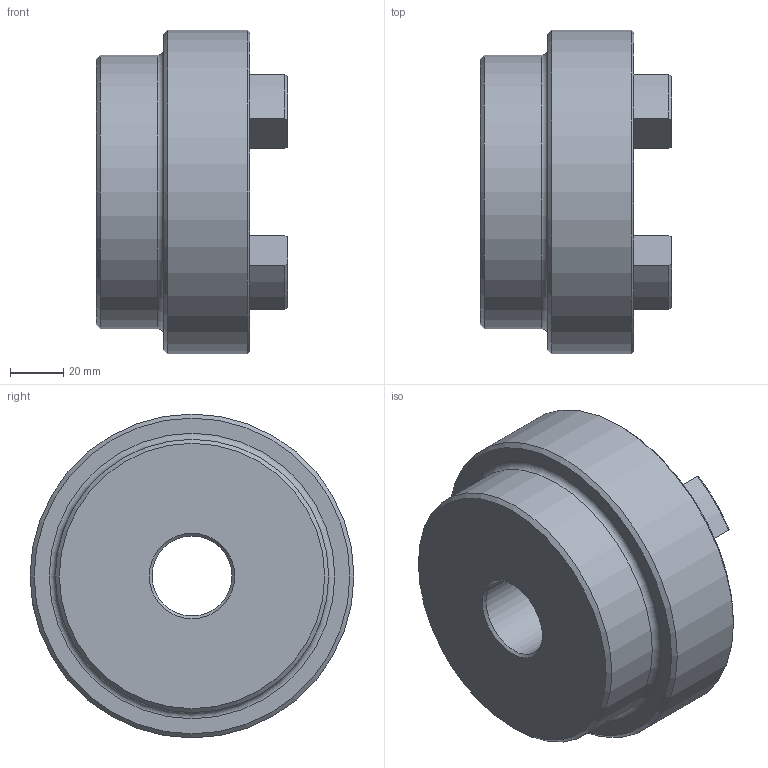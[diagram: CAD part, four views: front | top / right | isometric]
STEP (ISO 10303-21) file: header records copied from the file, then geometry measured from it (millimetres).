
FILE_DESCRIPTION (( 'STEP AP203' ), '1' );
FILE_NAME ('RC5.step', '2024-07-25T13:22:59', ( 'Adlan' ), ( '' ), 'SwSTEP 2.0', 'SolidWorks 2013', '' );
FILE_SCHEMA (( 'CONFIG_CONTROL_DESIGN' ));
Length unit declared in the file: inch
Products named in the file (1): RC5
Bounding box: 72.14 x 122.17 x 122.17 mm (x, y, z)
Volume: 450111 mm3; surface area: 58203.7 mm2
Topology: 1 solids, 1 shells, 76 faces, 189 edges, 117 vertices
Faces by surface type: cylinder 31, torus 17, plane 16, cone 12
Full cylindrical faces by diameter (mm): 30.175 x1, 103.124 x1, 122.174 x1
Entity records: 2349 total; most frequent: CARTESIAN_POINT 443, DIRECTION 416, ORIENTED_EDGE 358, EDGE_CURVE 179, AXIS2_PLACEMENT_3D 168, VERTEX_POINT 115, CIRCLE 91, EDGE_LOOP 88
